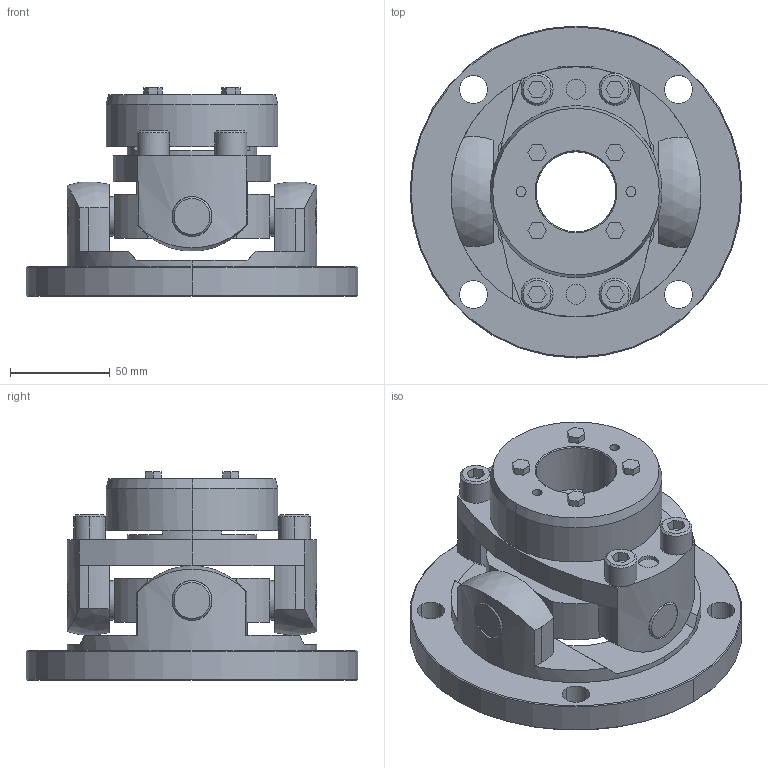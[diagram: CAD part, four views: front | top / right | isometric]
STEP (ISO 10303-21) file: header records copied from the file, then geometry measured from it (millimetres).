
FILE_DESCRIPTION((''),'2;1');
FILE_NAME('UCNF-125T7-40.stp','2011-09-22T08:28:46',(''),(''),'AutoCAD STEP 2000i','AutoCAD 2000i',', , ');
FILE_SCHEMA(('CONFIG_CONTROL_DESIGN'));
Length unit declared in the file: millimetre
Products named in the file (8): UCNF-125T7-40; 忣兜1; UCN125T7-T040; UCN125T7-T035; UCNF-12502; UCN125T7-T032-1; UCN125T7-T032; UCN125-SEN
Assembly tree (7 placements, depth 2):
  UCNF-125T7-40
    忣兜1
    UCN125T7-T040
    UCN125T7-T035
    UCNF-12502
    UCN125T7-T032-1
    UCN125T7-T032
    UCN125-SEN
Bounding box: 166 x 166 x 104.5 mm (x, y, z)
Volume: 716416.1 mm3; surface area: 130759.1 mm2
Topology: 1 solids, 1 shells, 284 faces, 711 edges, 463 vertices
Faces by surface type: plane 138, cylinder 104, cone 38, sphere 4
Entity records: 9233 total; most frequent: CARTESIAN_POINT 1990, DIRECTION 1550, ORIENTED_EDGE 1422, EDGE_CURVE 711, AXIS2_PLACEMENT_3D 579, VERTEX_POINT 463, VECTOR 392, LINE 392
